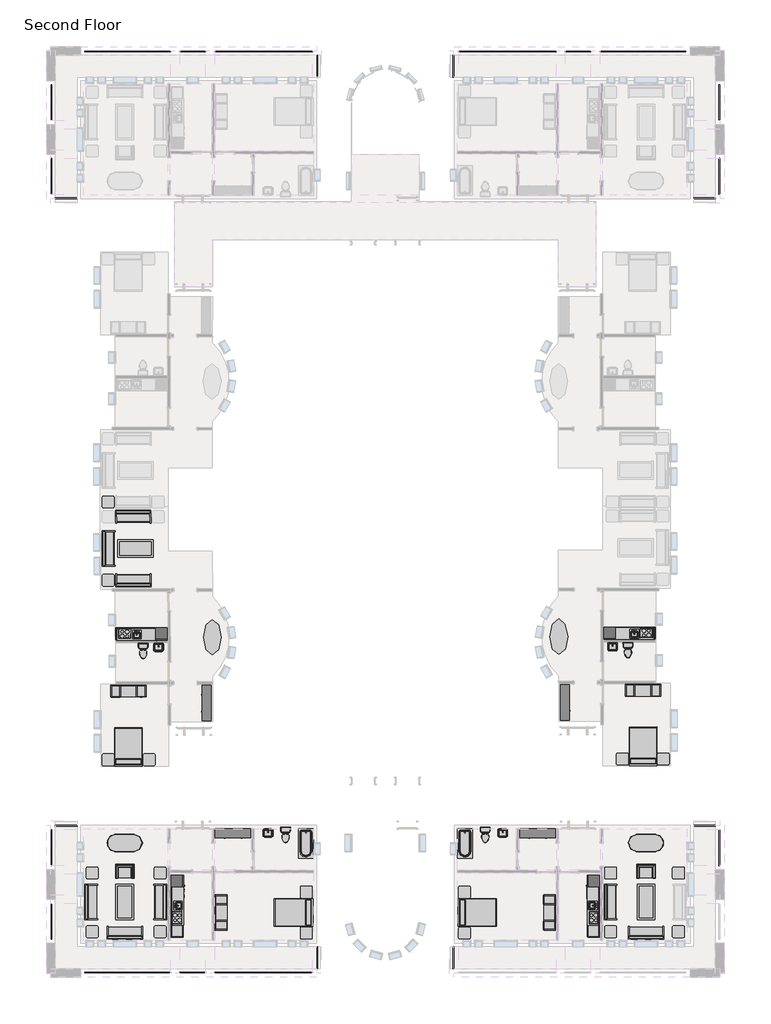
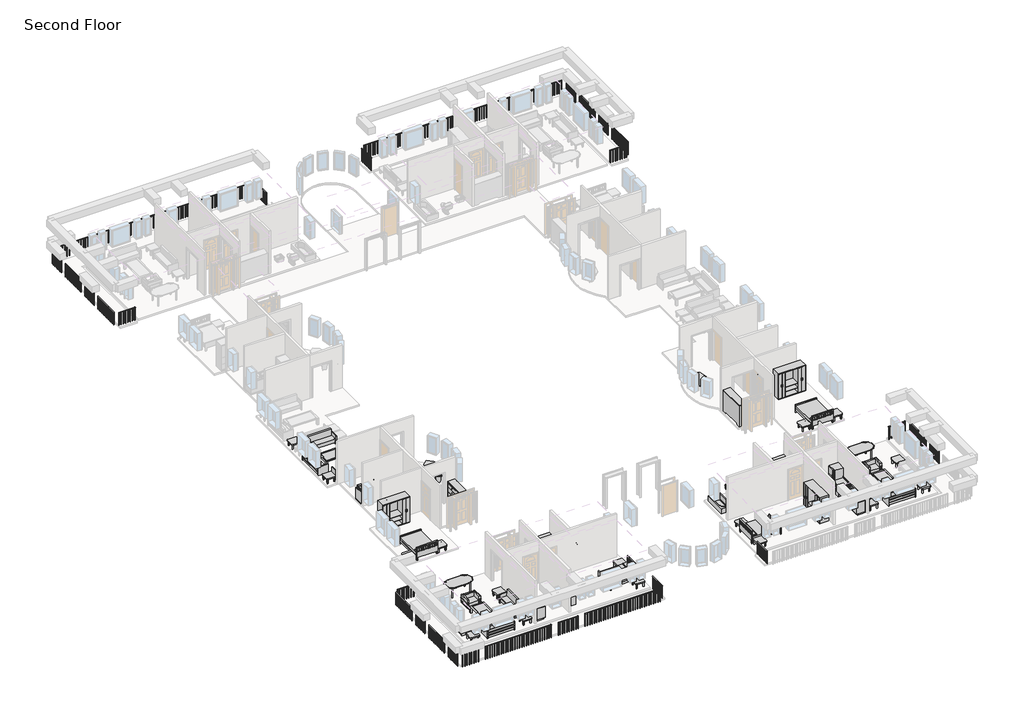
# One storey, part 5 of 6: 47 furniture elements, 34 railings, 10 flow terminals, 4 proxies.
"""IFC4 building model written with IfcOpenShell, lengths in millimetres."""

from ifc_helpers import new_model, si_unit, origin, place, context, project, spatial, transform, mapped, element, save
from components import kitchenette_medium_5_9f73a4de, kitchenette_medium_5_952fb32b, proxy_64a468c4, proxy_b7eaed23, flow_terminal_0aeb31e3, flow_terminal_b53e1081, toilet_domestic_3d_toilet_domestic_3d_f7549cf7, toilet_domestic_3d_toilet_domestic_3d_183bbd19, toilet_domestic_3d_toilet_domestic_3d_a08e12bc, toilet_domestic_3d_toilet_domestic_3d_5530cc89, tub_rectangular_3d_tub_rectangular_3d_5e45a89b, tub_rectangular_3d_tub_rectangular_3d_98eb9c7c, furniture_096e7f55, furniture_097b173b, chair_corbu_chair_corbu_2764bdef, chair_corbu_chair_corbu_95fad79a, furniture_7c473f12, furniture_f6e81328, furniture_ddc78764, furniture_328d9d47, furniture_4ef38d96, furniture_dde8a40a, furniture_cd93a443, furniture_c9413244, furniture_2c34a4f9, furniture_cc351095, furniture_43880056, furniture_a7425590, furniture_3a588284, furniture_1befe2a2, handrail_rectangular_a0c948d2, handrail_rectangular_cb3c633e, handrail_rectangular_6ff145d7, handrail_rectangular_80ee4c50, handrail_rectangular_8bd776dc, handrail_rectangular_69b34157, handrail_rectangular_89898b2f, handrail_rectangular_32c2d9bd, handrail_rectangular_1c239291, handrail_rectangular_2b3bb03d, handrail_rectangular_8c986ea6, handrail_rectangular_e91a7204, handrail_rectangular_53595464, handrail_rectangular_a494b855, handrail_rectangular_e36991a0, handrail_rectangular_7d881666, handrail_rectangular_e4eda951, handrail_rectangular_93dca39f, handrail_rectangular_cdcfe162, handrail_rectangular_a0d233dd, handrail_rectangular_ba242722, handrail_rectangular_a1b2dedc, handrail_rectangular_661a7cde, handrail_rectangular_1508d83e, handrail_rectangular_c44e27ec, handrail_rectangular_5d94c17a, handrail_rectangular_1ba635f3, handrail_rectangular_17d4969a, handrail_rectangular_c3ba92fe, handrail_rectangular_5f131317, handrail_rectangular_7ebbf838, handrail_rectangular_74ad9185, handrail_rectangular_6ab010ad, handrail_rectangular_7f64f3ec

model = new_model("IFC4")

# Units and contexts
model_context = context("Model", 3, world=origin())
ifc_project = project(units=[si_unit("LENGTHUNIT", "METRE", prefix="MILLI")], contexts=[model_context])

# Site, building, storey
site = spatial("IfcSite", under=ifc_project)
building = spatial("IfcBuilding", under=site)
storey = spatial("IfcBuildingStorey", under=building, Name="Second Floor", Elevation=3048.0)

# Proxies
placement = place(None, origin())
kitchenette_medium_5_shape = kitchenette_medium_5_9f73a4de(model_context)
element("IfcBuildingElementProxy", 1, Name="Kitchenette - Medium : 5'", ObjectType="Kitchenette - Medium : 5'", at=placement, inside=storey, context=model_context, shape_type="MappedRepresentation", body=[
    mapped(kitchenette_medium_5_shape, transform((-28107.606888, -17781.5711796, 3048.0), x_axis=(0.9999974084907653, 0.002276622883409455, 0.0), y_axis=(-0.002276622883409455, 0.9999974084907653, 0.0), z_axis=(0.0, 0.0, 1.0))),
])
kitchenette_medium_5_2_shape = kitchenette_medium_5_952fb32b(model_context)
element("IfcBuildingElementProxy", 2, Name="Kitchenette - Medium : 5'", ObjectType="Kitchenette - Medium : 5'", at=placement, inside=storey, context=model_context, shape_type="MappedRepresentation", body=[
    mapped(kitchenette_medium_5_2_shape, transform((-1744.2179937, -17741.558118, 3048.0), x_axis=(-0.999999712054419, -0.0007588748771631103, 0.0), y_axis=(0.0007588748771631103, -0.999999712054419, 0.0), z_axis=(0.0, 0.0, 1.0))),
])
proxy_shape = proxy_64a468c4(model_context)
element("IfcBuildingElementProxy", 3, Name="Kitchenette - Medium : 8'6\"", ObjectType="Kitchenette - Medium : 8'6\"", at=placement, inside=storey, context=model_context, shape_type="MappedRepresentation", body=[
    mapped(proxy_shape, transform((-25982.5839563, -32446.1322699, 3048.0), x_axis=(0.0, 1.0, 0.0), y_axis=(-1.0, 0.0, 0.0), z_axis=(0.0, 0.0, 1.0))),
])
proxy_2_shape = proxy_b7eaed23(model_context)
element("IfcBuildingElementProxy", 4, Name="Kitchenette - Medium : 8'6\"", ObjectType="Kitchenette - Medium : 8'6\"", at=placement, inside=storey, context=model_context, shape_type="MappedRepresentation", body=[
    mapped(proxy_2_shape, transform((-3887.7589563, -32446.1322699, 3048.0), x_axis=(0.0, 1.0, 0.0), y_axis=(-1.0, 0.0, 0.0), z_axis=(0.0, 0.0, 1.0))),
])

# Flow terminals
flow_terminal_shape = flow_terminal_0aeb31e3(model_context)
element("IfcFlowTerminal", 5, ObjectType="Sink Vanity-Square : 24\" x 19\"", at=placement, inside=storey, context=model_context, shape_type="MappedRepresentation", body=[
    mapped(flow_terminal_shape, transform((-21005.5856969, -28314.9262144, 3048.0), x_axis=(1.0, 0.0, 0.0), y_axis=(0.0, 1.0, 0.0), z_axis=(0.0, 0.0, 1.0))),
])
element("IfcFlowTerminal", 6, ObjectType="Sink Vanity-Square : 24\" x 19\"", at=placement, inside=storey, context=model_context, shape_type="MappedRepresentation", body=[
    mapped(flow_terminal_shape, transform((-26654.3976584, -18738.7087237, 3048.0), x_axis=(0.9999974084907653, 0.0022766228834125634, 0.0), y_axis=(-0.0022766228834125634, 0.9999974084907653, 0.0), z_axis=(0.0, 0.0, 1.0))),
])
flow_terminal_2_shape = flow_terminal_b53e1081(model_context)
element("IfcFlowTerminal", 7, ObjectType="Sink Vanity-Square : 24\" x 19\"", at=placement, inside=storey, context=model_context, shape_type="MappedRepresentation", body=[
    mapped(flow_terminal_2_shape, transform((-8864.7572157, -28314.9262144, 3048.0), x_axis=(-1.0, 0.0, 0.0), y_axis=(0.0, -1.0, 0.0), z_axis=(0.0, 0.0, 1.0))),
])
element("IfcFlowTerminal", 8, ObjectType="Sink Vanity-Square : 24\" x 19\"", at=placement, inside=storey, context=model_context, shape_type="MappedRepresentation", body=[
    mapped(flow_terminal_2_shape, transform((-3194.5151418, -18703.102462, 3048.0), x_axis=(-0.999999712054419, -0.0007588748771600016, 0.0), y_axis=(0.0007588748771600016, -0.999999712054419, 0.0), z_axis=(0.0, 0.0, 1.0))),
])
toilet_domestic_3d_toilet_domestic_3d_shape = toilet_domestic_3d_toilet_domestic_3d_f7549cf7(model_context)
toilet_domestic_3d_toilet_domestic_3d_2_shape = toilet_domestic_3d_toilet_domestic_3d_183bbd19(model_context)
element("IfcFlowTerminal", 9, ObjectType="Toilet-Domestic-3D : Toilet-Domestic-3D", at=placement, inside=storey, context=model_context, shape_type="MappedRepresentation", body=[
    mapped(toilet_domestic_3d_toilet_domestic_3d_shape, transform((-20088.1962539, -28549.2030376, 3048.0), x_axis=(1.0000000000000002, 0.0, 0.0), y_axis=(0.0, 1.0000000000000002, 0.0), z_axis=(0.0, 0.0, 1.0))),
    mapped(toilet_domestic_3d_toilet_domestic_3d_2_shape, transform((-20088.1962539, -28549.2030376, 3048.0), x_axis=(1.0000000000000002, 0.0, 0.0), y_axis=(0.0, 1.0000000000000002, 0.0), z_axis=(0.0, 0.0, 1.0))),
])
element("IfcFlowTerminal", 10, ObjectType="Toilet-Domestic-3D : Toilet-Domestic-3D", at=placement, inside=storey, context=model_context, shape_type="MappedRepresentation", body=[
    mapped(toilet_domestic_3d_toilet_domestic_3d_shape, transform((-27433.2527987, -19065.9985435, 3048.0), x_axis=(0.9999974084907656, 0.00227662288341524, 0.0), y_axis=(-0.00227662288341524, 0.9999974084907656, 0.0), z_axis=(0.0, 0.0, 1.0))),
    mapped(toilet_domestic_3d_toilet_domestic_3d_2_shape, transform((-27433.2527987, -19065.9985435, 3048.0), x_axis=(0.9999974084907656, 0.00227662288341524, 0.0), y_axis=(-0.00227662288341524, 0.9999974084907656, 0.0), z_axis=(0.0, 0.0, 1.0))),
])
toilet_domestic_3d_toilet_domestic_3d_3_shape = toilet_domestic_3d_toilet_domestic_3d_a08e12bc(model_context)
toilet_domestic_3d_toilet_domestic_3d_4_shape = toilet_domestic_3d_toilet_domestic_3d_5530cc89(model_context)
element("IfcFlowTerminal", 11, ObjectType="Toilet-Domestic-3D : Toilet-Domestic-3D", at=placement, inside=storey, context=model_context, shape_type="MappedRepresentation", body=[
    mapped(toilet_domestic_3d_toilet_domestic_3d_3_shape, transform((-9782.1466587, -28549.2030376, 3048.0), x_axis=(-1.0000000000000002, 0.0, 0.0), y_axis=(0.0, -1.0000000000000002, 0.0), z_axis=(0.0, 0.0, 1.0))),
    mapped(toilet_domestic_3d_toilet_domestic_3d_4_shape, transform((-9782.1466587, -28549.2030376, 3048.0), x_axis=(-1.0000000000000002, 0.0, 0.0), y_axis=(0.0, -1.0000000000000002, 0.0), z_axis=(0.0, 0.0, 1.0))),
])
element("IfcFlowTerminal", 12, ObjectType="Toilet-Domestic-3D : Toilet-Domestic-3D", at=placement, inside=storey, context=model_context, shape_type="MappedRepresentation", body=[
    mapped(toilet_domestic_3d_toilet_domestic_3d_3_shape, transform((-2414.6701032, -19028.026563, 3048.0), x_axis=(-0.9999997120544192, -0.0007588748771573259, 0.0), y_axis=(0.0007588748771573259, -0.9999997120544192, 0.0), z_axis=(0.0, 0.0, 1.0))),
    mapped(toilet_domestic_3d_toilet_domestic_3d_4_shape, transform((-2414.6701032, -19028.026563, 3048.0), x_axis=(-0.9999997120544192, -0.0007588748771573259, 0.0), y_axis=(0.0007588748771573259, -0.9999997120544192, 0.0), z_axis=(0.0, 0.0, 1.0))),
])
tub_rectangular_3d_tub_rectangular_3d_shape = tub_rectangular_3d_tub_rectangular_3d_5e45a89b(model_context)
element("IfcFlowTerminal", 13, ObjectType="Tub-Rectangular-3D : Tub-Rectangular-3D", at=placement, inside=storey, context=model_context, shape_type="MappedRepresentation", body=[
    mapped(tub_rectangular_3d_tub_rectangular_3d_shape, transform((-18476.8839563, -29245.383782, 3048.0), x_axis=(0.0, -1.0, 0.0), y_axis=(1.0, 0.0, 0.0), z_axis=(0.0, 0.0, 1.0))),
])
tub_rectangular_3d_tub_rectangular_3d_2_shape = tub_rectangular_3d_tub_rectangular_3d_98eb9c7c(model_context)
element("IfcFlowTerminal", 14, ObjectType="Tub-Rectangular-3D : Tub-Rectangular-3D", at=placement, inside=storey, context=model_context, shape_type="MappedRepresentation", body=[
    mapped(tub_rectangular_3d_tub_rectangular_3d_2_shape, transform((-11393.4589563, -29245.383782, 3048.0), x_axis=(0.0, -1.0, 0.0), y_axis=(1.0, 0.0, 0.0), z_axis=(0.0, 0.0, 1.0))),
])

# Furniture
furniture_shape = furniture_096e7f55(model_context)
element("IfcFurniture", 15, ObjectType="Bed-Shaker : Double 56\" x 78\"", at=placement, inside=storey, context=model_context, shape_type="MappedRepresentation", body=[
    mapped(furniture_shape, transform((-18687.1446324, -32480.2121827, 3048.0), x_axis=(0.0, -1.0, 0.0), y_axis=(1.0, 0.0, 0.0), z_axis=(0.0, 0.0, 1.0))),
])
element("IfcFurniture", 16, ObjectType="Bed-Shaker : Double 56\" x 78\"", at=placement, inside=storey, context=model_context, shape_type="MappedRepresentation", body=[
    mapped(furniture_shape, transform((-28204.4366356, -24912.5804513, 3048.0), x_axis=(-0.9999974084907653, -0.0022766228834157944, 0.0), y_axis=(0.0022766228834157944, -0.9999974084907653, 0.0), z_axis=(0.0, 0.0, 1.0))),
])
furniture_2_shape = furniture_097b173b(model_context)
element("IfcFurniture", 17, ObjectType="Bed-Shaker : Double 56\" x 78\"", at=placement, inside=storey, context=model_context, shape_type="MappedRepresentation", body=[
    mapped(furniture_2_shape, transform((-11183.1982802, -32480.2121827, 3048.0), x_axis=(0.0, -1.0, 0.0), y_axis=(1.0, 0.0, 0.0), z_axis=(0.0, 0.0, 1.0))),
])
element("IfcFurniture", 18, ObjectType="Bed-Shaker : Double 56\" x 78\"", at=placement, inside=storey, context=model_context, shape_type="MappedRepresentation", body=[
    mapped(furniture_2_shape, transform((-1625.7425483, -24872.2406101, 3048.0), x_axis=(0.999999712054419, 0.0007588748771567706, 0.0), y_axis=(-0.0007588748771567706, 0.999999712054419, 0.0), z_axis=(0.0, 0.0, 1.0))),
])
chair_corbu_chair_corbu_shape = chair_corbu_chair_corbu_2764bdef(model_context)
element("IfcFurniture", 19, ObjectType="Chair-Corbu : Chair-Corbu", at=placement, inside=storey, context=model_context, shape_type="MappedRepresentation", body=[
    mapped(chair_corbu_chair_corbu_shape, transform((-28956.2577268, -30801.8328625, 3048.0), x_axis=(1.0, 0.0, 0.0), y_axis=(0.0, 1.0, 0.0), z_axis=(0.0, 0.0, 1.0))),
])
chair_corbu_chair_corbu_2_shape = chair_corbu_chair_corbu_95fad79a(model_context)
element("IfcFurniture", 20, ObjectType="Chair-Corbu : Chair-Corbu", at=placement, inside=storey, context=model_context, shape_type="MappedRepresentation", body=[
    mapped(chair_corbu_chair_corbu_2_shape, transform((-914.0851858, -30801.8328625, 3048.0), x_axis=(-1.0, 0.0, 0.0), y_axis=(0.0, -1.0, 0.0), z_axis=(0.0, 0.0, 1.0))),
])
furniture_3_shape = furniture_7c473f12(model_context)
element("IfcFurniture", 21, ObjectType="Dresser : 72\" x 60\" x 18\"", at=placement, inside=storey, context=model_context, shape_type="MappedRepresentation", body=[
    mapped(furniture_3_shape, transform((-22525.6906965, -28012.9178592, 3048.0), x_axis=(1.0, 0.0, 0.0), y_axis=(0.0, 1.0, 0.0), z_axis=(0.0, 0.0, 1.0))),
])
element("IfcFurniture", 22, ObjectType="Dresser : 72\" x 60\" x 18\"", at=placement, inside=storey, context=model_context, shape_type="MappedRepresentation", body=[
    mapped(furniture_3_shape, transform((-23801.477263, -21929.2966114, 3048.0), x_axis=(0.00227662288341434, -0.9999974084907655, 0.0), y_axis=(0.9999974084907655, 0.00227662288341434, 0.0), z_axis=(0.0, 0.0, 1.0))),
])
furniture_4_shape = furniture_f6e81328(model_context)
element("IfcFurniture", 23, ObjectType="Dresser : 72\" x 60\" x 18\"", at=placement, inside=storey, context=model_context, shape_type="MappedRepresentation", body=[
    mapped(furniture_4_shape, transform((-7344.6522161, -28012.9178592, 3048.0), x_axis=(-1.0, 0.0, 0.0), y_axis=(0.0, -1.0, 0.0), z_axis=(0.0, 0.0, 1.0))),
])
element("IfcFurniture", 24, ObjectType="Dresser : 72\" x 60\" x 18\"", at=placement, inside=storey, context=model_context, shape_type="MappedRepresentation", body=[
    mapped(furniture_4_shape, transform((-6037.7373795, -21902.3356763, 3048.0), x_axis=(0.0007588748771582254, -0.9999997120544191, 0.0), y_axis=(0.9999997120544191, 0.0007588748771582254, 0.0), z_axis=(0.0, 0.0, 1.0))),
])
furniture_5_shape = furniture_ddc78764(model_context)
element("IfcFurniture", 25, ObjectType="Entertainment Center : 72\" x 72\" x 24\"", at=placement, inside=storey, context=model_context, shape_type="MappedRepresentation", body=[
    mapped(furniture_5_shape, transform((-23810.8839563, -32461.1621827, 3048.0), x_axis=(0.0, 1.0, 0.0), y_axis=(-1.0, 0.0, 0.0), z_axis=(0.0, 0.0, 1.0))),
])
element("IfcFurniture", 26, ObjectType="Entertainment Center : 72\" x 72\" x 24\"", at=placement, inside=storey, context=model_context, shape_type="MappedRepresentation", body=[
    mapped(furniture_5_shape, transform((-28195.1288723, -20633.3206223, 3048.0), x_axis=(0.9999974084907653, 0.0022766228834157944, 0.0), y_axis=(-0.0022766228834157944, 0.9999974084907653, 0.0), z_axis=(0.0, 0.0, 1.0))),
])
furniture_6_shape = furniture_328d9d47(model_context)
element("IfcFurniture", 27, ObjectType="Entertainment Center : 72\" x 72\" x 24\"", at=placement, inside=storey, context=model_context, shape_type="MappedRepresentation", body=[
    mapped(furniture_6_shape, transform((-6059.4589563, -32461.1621827, 3048.0), x_axis=(0.0, 1.0, 0.0), y_axis=(-1.0, 0.0, 0.0), z_axis=(0.0, 0.0, 1.0))),
])
element("IfcFurniture", 28, ObjectType="Entertainment Center : 72\" x 72\" x 24\"", at=placement, inside=storey, context=model_context, shape_type="MappedRepresentation", body=[
    mapped(furniture_6_shape, transform((-1648.0399411, -20593.0287498, 3048.0), x_axis=(-0.999999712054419, -0.0007588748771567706, 0.0), y_axis=(0.0007588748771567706, -0.999999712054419, 0.0), z_axis=(0.0, 0.0, 1.0))),
])
furniture_7_shape = furniture_4ef38d96(model_context)
element("IfcFurniture", 29, ObjectType="Sofa : 72\"", at=placement, inside=storey, context=model_context, shape_type="MappedRepresentation", body=[
    mapped(furniture_7_shape, transform((-28312.5134645, -33349.614215, 3048.0), x_axis=(-1.0, 0.0, 0.0), y_axis=(0.0, -1.0, 0.0), z_axis=(0.0, 0.0, 1.0))),
])
element("IfcFurniture", 30, ObjectType="Sofa : 72\"", at=placement, inside=storey, context=model_context, shape_type="MappedRepresentation", body=[
    mapped(furniture_7_shape, transform((-29963.929858, -31991.3388051, 3048.0), x_axis=(0.0, 1.0, 0.0), y_axis=(-1.0, 0.0, 0.0), z_axis=(0.0, 0.0, 1.0))),
])
element("IfcFurniture", 31, ObjectType="Sofa : 72\"", at=placement, inside=storey, context=model_context, shape_type="MappedRepresentation", body=[
    mapped(furniture_7_shape, transform((-26700.2380547, -31850.5978215, 3048.0), x_axis=(0.0, -1.0, 0.0), y_axis=(1.0, 0.0, 0.0), z_axis=(0.0, 0.0, 1.0))),
])
element("IfcFurniture", 32, ObjectType="Sofa : 72\"", at=placement, inside=storey, context=model_context, shape_type="MappedRepresentation", body=[
    mapped(furniture_7_shape, transform((-29066.303607, -13757.6119061, 3048.0), x_axis=(-0.0022766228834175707, 0.9999974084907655, 0.0), y_axis=(-0.9999974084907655, -0.0022766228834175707, 0.0), z_axis=(0.0, 0.0, 1.0))),
])
element("IfcFurniture", 33, ObjectType="Sofa : 72\"", at=placement, inside=storey, context=model_context, shape_type="MappedRepresentation", body=[
    mapped(furniture_7_shape, transform((-27872.3119152, -15172.6171557, 3048.0), x_axis=(-0.9999974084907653, -0.0022766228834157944, 0.0), y_axis=(0.0022766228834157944, -0.9999974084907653, 0.0), z_axis=(0.0, 0.0, 1.0))),
])
furniture_8_shape = furniture_dde8a40a(model_context)
element("IfcFurniture", 34, ObjectType="Sofa : 72\"", at=placement, inside=storey, context=model_context, shape_type="MappedRepresentation", body=[
    mapped(furniture_8_shape, transform((-1557.8294481, -33349.614215, 3048.0), x_axis=(1.0, 0.0, 0.0), y_axis=(0.0, 1.0, 0.0), z_axis=(0.0, 0.0, 1.0))),
])
element("IfcFurniture", 35, ObjectType="Sofa : 72\"", at=placement, inside=storey, context=model_context, shape_type="MappedRepresentation", body=[
    mapped(furniture_8_shape, transform((-3170.104858, -31850.5978215, 3048.0), x_axis=(0.0, -1.0, 0.0), y_axis=(1.0, 0.0, 0.0), z_axis=(0.0, 0.0, 1.0))),
])
element("IfcFurniture", 36, ObjectType="Sofa : 72\"", at=placement, inside=storey, context=model_context, shape_type="MappedRepresentation", body=[
    mapped(furniture_8_shape, transform((-27879.0875562, -12196.444182, 3048.0), x_axis=(-0.9999974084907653, -0.002276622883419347, 0.0), y_axis=(0.002276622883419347, -0.9999974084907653, 0.0), z_axis=(0.0, 0.0, 1.0))),
])
furniture_9_shape = furniture_cd93a443(model_context)
element("IfcFurniture", 37, ObjectType="Table-Coffee : 36\" x 72\" x 18\"", at=placement, inside=storey, context=model_context, shape_type="MappedRepresentation", body=[
    mapped(furniture_9_shape, transform((-28287.6728785, -31939.23408, 3048.0), x_axis=(0.0, 1.0, 0.0), y_axis=(-1.0, 0.0, 0.0), z_axis=(0.0, 0.0, 1.0))),
])
element("IfcFurniture", 38, ObjectType="Table-Coffee : 36\" x 72\" x 18\"", at=placement, inside=storey, context=model_context, shape_type="MappedRepresentation", body=[
    mapped(furniture_9_shape, transform((-27859.0700478, -13779.7041338, 3048.0), x_axis=(0.9999974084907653, 0.0022766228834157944, 0.0), y_axis=(-0.0022766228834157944, 0.9999974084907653, 0.0), z_axis=(0.0, 0.0, 1.0))),
])
furniture_10_shape = furniture_c9413244(model_context)
element("IfcFurniture", 39, ObjectType="Table-Coffee : 36\" x 72\" x 18\"", at=placement, inside=storey, context=model_context, shape_type="MappedRepresentation", body=[
    mapped(furniture_10_shape, transform((-1582.6700341, -31939.23408, 3048.0), x_axis=(0.0, 1.0, 0.0), y_axis=(-1.0, 0.0, 0.0), z_axis=(0.0, 0.0, 1.0))),
])
furniture_11_shape = furniture_2c34a4f9(model_context)
element("IfcFurniture", 40, ObjectType="Table-Dining Oval : 36\" x 72\"", at=placement, inside=storey, context=model_context, shape_type="MappedRepresentation", body=[
    mapped(furniture_11_shape, transform((-28784.7036284, -29231.066674, 3048.0), x_axis=(-1.0, 0.0, 0.0), y_axis=(0.0, -1.0, 0.0), z_axis=(0.0, 0.0, 1.0))),
])
furniture_12_shape = furniture_cc351095(model_context)
element("IfcFurniture", 41, ObjectType="Table-Dining Oval : 36\" x 72\"", at=placement, inside=storey, context=model_context, shape_type="MappedRepresentation", body=[
    mapped(furniture_12_shape, transform((-1085.6392842, -29231.066674, 3048.0), x_axis=(1.0, 0.0, 0.0), y_axis=(0.0, 1.0, 0.0), z_axis=(0.0, 0.0, 1.0))),
])
furniture_13_shape = furniture_43880056(model_context)
element("IfcFurniture", 42, ObjectType="Table-Ellipse : 72\" x 36\"", at=placement, inside=storey, context=model_context, shape_type="MappedRepresentation", body=[
    mapped(furniture_13_shape, transform((-23868.1864956, -18263.2939384, 3048.0), x_axis=(-0.0022766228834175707, 0.9999974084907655, 0.0), y_axis=(-0.9999974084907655, -0.0022766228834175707, 0.0), z_axis=(0.0, 0.0, 1.0))),
])
furniture_14_shape = furniture_a7425590(model_context)
element("IfcFurniture", 43, ObjectType="Table-Ellipse : 72\" x 36\"", at=placement, inside=storey, context=model_context, shape_type="MappedRepresentation", body=[
    mapped(furniture_14_shape, transform((-5982.1565875, -18236.1473975, 3048.0), x_axis=(-0.0007588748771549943, 0.9999997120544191, 0.0), y_axis=(-0.9999997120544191, -0.0007588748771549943, 0.0), z_axis=(0.0, 0.0, 1.0))),
])
furniture_15_shape = furniture_3a588284(model_context)
element("IfcFurniture", 44, ObjectType="Table-End : 24\" x 24\"", at=placement, inside=storey, context=model_context, shape_type="MappedRepresentation", body=[
    mapped(furniture_15_shape, transform((-11164.2346356, -31557.9140031, 3048.0), x_axis=(1.0, 0.0, 0.0), y_axis=(0.0, 1.0, 0.0), z_axis=(0.0, 0.0, 1.0))),
])
element("IfcFurniture", 45, ObjectType="Table-End : 24\" x 24\"", at=placement, inside=storey, context=model_context, shape_type="MappedRepresentation", body=[
    mapped(furniture_15_shape, transform((-29750.750326, -33292.5683133, 3048.0), x_axis=(-1.0, 0.0, 0.0), y_axis=(0.0, -1.0, 0.0), z_axis=(0.0, 0.0, 1.0))),
])
element("IfcFurniture", 46, ObjectType="Table-End : 24\" x 24\"", at=placement, inside=storey, context=model_context, shape_type="MappedRepresentation", body=[
    mapped(furniture_15_shape, transform((-26245.550326, -33292.5683133, 3048.0), x_axis=(-1.0, 0.0, 0.0), y_axis=(0.0, -1.0, 0.0), z_axis=(0.0, 0.0, 1.0))),
])
element("IfcFurniture", 47, ObjectType="Table-End : 24\" x 24\"", at=placement, inside=storey, context=model_context, shape_type="MappedRepresentation", body=[
    mapped(furniture_15_shape, transform((-26245.550326, -30268.3808133, 3048.0), x_axis=(-1.0, 0.0, 0.0), y_axis=(0.0, -1.0, 0.0), z_axis=(0.0, 0.0, 1.0))),
])
element("IfcFurniture", 48, ObjectType="Table-End : 24\" x 24\"", at=placement, inside=storey, context=model_context, shape_type="MappedRepresentation", body=[
    mapped(furniture_15_shape, transform((-29750.750326, -30268.3808133, 3048.0), x_axis=(-1.0, 0.0, 0.0), y_axis=(0.0, -1.0, 0.0), z_axis=(0.0, 0.0, 1.0))),
])
element("IfcFurniture", 49, ObjectType="Table-End : 24\" x 24\"", at=placement, inside=storey, context=model_context, shape_type="MappedRepresentation", body=[
    mapped(furniture_15_shape, transform((-18706.1082771, -33364.4103623, 3048.0), x_axis=(-1.0, 0.0, 0.0), y_axis=(0.0, -1.0, 0.0), z_axis=(0.0, 0.0, 1.0))),
])
element("IfcFurniture", 50, ObjectType="Table-End : 24\" x 24\"", at=placement, inside=storey, context=model_context, shape_type="MappedRepresentation", body=[
    mapped(furniture_15_shape, transform((-29093.6003882, -11599.1310126, 3048.0), x_axis=(0.0007588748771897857, 0.999999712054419, 0.0), y_axis=(-0.999999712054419, 0.0007588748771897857, 0.0), z_axis=(0.0, 0.0, 1.0))),
])
element("IfcFurniture", 51, ObjectType="Table-End : 24\" x 24\"", at=placement, inside=storey, context=model_context, shape_type="MappedRepresentation", body=[
    mapped(furniture_15_shape, transform((-2548.0548534, -24853.9768798, 3048.0), x_axis=(-0.0007588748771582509, 0.9999997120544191, 0.0), y_axis=(-0.9999997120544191, -0.0007588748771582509, 0.0), z_axis=(0.0, 0.0, 1.0))),
])
element("IfcFurniture", 52, ObjectType="Table-End : 24\" x 24\"", at=placement, inside=storey, context=model_context, shape_type="MappedRepresentation", body=[
    mapped(furniture_15_shape, transform((-29084.64411, -15630.066093, 3048.0), x_axis=(-0.0022766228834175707, 0.9999974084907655, 0.0), y_axis=(-0.9999974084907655, -0.0022766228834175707, 0.0), z_axis=(0.0, 0.0, 1.0))),
])
element("IfcFurniture", 53, ObjectType="Table-End : 24\" x 24\"", at=placement, inside=storey, context=model_context, shape_type="MappedRepresentation", body=[
    mapped(furniture_15_shape, transform((-29088.6756968, -24895.6298416, 3048.0), x_axis=(-0.0022766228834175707, 0.9999974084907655, 0.0), y_axis=(-0.9999974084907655, -0.0022766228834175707, 0.0), z_axis=(0.0, 0.0, 1.0))),
])
furniture_16_shape = furniture_1befe2a2(model_context)
element("IfcFurniture", 54, ObjectType="Table-End : 24\" x 24\"", at=placement, inside=storey, context=model_context, shape_type="MappedRepresentation", body=[
    mapped(furniture_16_shape, transform((-119.5925866, -33292.5683133, 3048.0), x_axis=(1.0, 0.0, 0.0), y_axis=(0.0, 1.0, 0.0), z_axis=(0.0, 0.0, 1.0))),
])
element("IfcFurniture", 55, ObjectType="Table-End : 24\" x 24\"", at=placement, inside=storey, context=model_context, shape_type="MappedRepresentation", body=[
    mapped(furniture_16_shape, transform((-3624.7925866, -33292.5683133, 3048.0), x_axis=(1.0, 0.0, 0.0), y_axis=(0.0, 1.0, 0.0), z_axis=(0.0, 0.0, 1.0))),
])
element("IfcFurniture", 56, ObjectType="Table-End : 24\" x 24\"", at=placement, inside=storey, context=model_context, shape_type="MappedRepresentation", body=[
    mapped(furniture_16_shape, transform((-3624.7925866, -30268.3808133, 3048.0), x_axis=(1.0, 0.0, 0.0), y_axis=(0.0, 1.0, 0.0), z_axis=(0.0, 0.0, 1.0))),
])
element("IfcFurniture", 57, ObjectType="Table-End : 24\" x 24\"", at=placement, inside=storey, context=model_context, shape_type="MappedRepresentation", body=[
    mapped(furniture_16_shape, transform((-119.5925866, -30268.3808133, 3048.0), x_axis=(1.0, 0.0, 0.0), y_axis=(0.0, 1.0, 0.0), z_axis=(0.0, 0.0, 1.0))),
])
element("IfcFurniture", 58, ObjectType="Table-End : 24\" x 24\"", at=placement, inside=storey, context=model_context, shape_type="MappedRepresentation", body=[
    mapped(furniture_16_shape, transform((-11164.2346356, -33364.4103623, 3048.0), x_axis=(1.0, 0.0, 0.0), y_axis=(0.0, 1.0, 0.0), z_axis=(0.0, 0.0, 1.0))),
])
element("IfcFurniture", 59, ObjectType="Table-End : 24\" x 24\"", at=placement, inside=storey, context=model_context, shape_type="MappedRepresentation", body=[
    mapped(furniture_16_shape, transform((-18706.1082771, -31557.9140031, 3048.0), x_axis=(-1.0, 0.0, 0.0), y_axis=(0.0, -1.0, 0.0), z_axis=(0.0, 0.0, 1.0))),
])
element("IfcFurniture", 60, ObjectType="Table-End : 24\" x 24\"", at=placement, inside=storey, context=model_context, shape_type="MappedRepresentation", body=[
    mapped(furniture_16_shape, transform((-741.5590143, -24852.6059751, 3048.0), x_axis=(-0.0007588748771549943, 0.9999997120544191, 0.0), y_axis=(-0.9999997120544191, -0.0007588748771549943, 0.0), z_axis=(0.0, 0.0, 1.0))),
])
element("IfcFurniture", 61, ObjectType="Table-End : 24\" x 24\"", at=placement, inside=storey, context=model_context, shape_type="MappedRepresentation", body=[
    mapped(furniture_16_shape, transform((-27282.1840192, -24891.5171307, 3048.0), x_axis=(-0.002276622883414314, 0.9999974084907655, 0.0), y_axis=(-0.9999974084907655, -0.002276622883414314, 0.0), z_axis=(0.0, 0.0, 1.0))),
])

# Railings
handrail_rectangular_shape = handrail_rectangular_a0c948d2(model_context)
element("IfcRailing", 62, ObjectType="Handrail - Rectangular", at=placement, inside=storey, context=model_context, shape_type="MappedRepresentation", body=[
    mapped(handrail_rectangular_shape, transform((0.0, 0.0, 0.0), x_axis=(1.0, 0.0, 0.0), y_axis=(0.0, 1.0, 0.0), z_axis=(0.0, 0.0, 1.0))),
])
handrail_rectangular_2_shape = handrail_rectangular_cb3c633e(model_context)
element("IfcRailing", 63, ObjectType="Handrail - Rectangular", at=placement, inside=storey, context=model_context, shape_type="MappedRepresentation", body=[
    mapped(handrail_rectangular_2_shape, transform((0.0, 0.0, 0.0), x_axis=(1.0, 0.0, 0.0), y_axis=(0.0, 1.0, 0.0), z_axis=(0.0, 0.0, 1.0))),
])
handrail_rectangular_3_shape = handrail_rectangular_6ff145d7(model_context)
element("IfcRailing", 64, ObjectType="Handrail - Rectangular", at=placement, inside=storey, context=model_context, shape_type="MappedRepresentation", body=[
    mapped(handrail_rectangular_3_shape, transform((0.0, 0.0, 0.0), x_axis=(1.0, 0.0, 0.0), y_axis=(0.0, 1.0, 0.0), z_axis=(0.0, 0.0, 1.0))),
])
handrail_rectangular_4_shape = handrail_rectangular_80ee4c50(model_context)
element("IfcRailing", 65, ObjectType="Handrail - Rectangular", at=placement, inside=storey, context=model_context, shape_type="MappedRepresentation", body=[
    mapped(handrail_rectangular_4_shape, transform((0.0, 0.0, 0.0), x_axis=(1.0, 0.0, 0.0), y_axis=(0.0, 1.0, 0.0), z_axis=(0.0, 0.0, 1.0))),
])
handrail_rectangular_5_shape = handrail_rectangular_8bd776dc(model_context)
element("IfcRailing", 66, ObjectType="Handrail - Rectangular", at=placement, inside=storey, context=model_context, shape_type="MappedRepresentation", body=[
    mapped(handrail_rectangular_5_shape, transform((0.0, 0.0, 0.0), x_axis=(1.0, 0.0, 0.0), y_axis=(0.0, 1.0, 0.0), z_axis=(0.0, 0.0, 1.0))),
])
handrail_rectangular_6_shape = handrail_rectangular_69b34157(model_context)
element("IfcRailing", 67, ObjectType="Handrail - Rectangular", at=placement, inside=storey, context=model_context, shape_type="MappedRepresentation", body=[
    mapped(handrail_rectangular_6_shape, transform((0.0, 0.0, 0.0), x_axis=(1.0, 0.0, 0.0), y_axis=(0.0, 1.0, 0.0), z_axis=(0.0, 0.0, 1.0))),
])
handrail_rectangular_7_shape = handrail_rectangular_89898b2f(model_context)
element("IfcRailing", 68, ObjectType="Handrail - Rectangular", at=placement, inside=storey, context=model_context, shape_type="MappedRepresentation", body=[
    mapped(handrail_rectangular_7_shape, transform((0.0, 0.0, 0.0), x_axis=(1.0, 0.0, 0.0), y_axis=(0.0, 1.0, 0.0), z_axis=(0.0, 0.0, 1.0))),
])
handrail_rectangular_8_shape = handrail_rectangular_32c2d9bd(model_context)
element("IfcRailing", 69, ObjectType="Handrail - Rectangular", at=placement, inside=storey, context=model_context, shape_type="MappedRepresentation", body=[
    mapped(handrail_rectangular_8_shape, transform((0.0, 0.0, 0.0), x_axis=(1.0, 0.0, 0.0), y_axis=(0.0, 1.0, 0.0), z_axis=(0.0, 0.0, 1.0))),
])
handrail_rectangular_9_shape = handrail_rectangular_1c239291(model_context)
element("IfcRailing", 70, ObjectType="Handrail - Rectangular", at=placement, inside=storey, context=model_context, shape_type="MappedRepresentation", body=[
    mapped(handrail_rectangular_9_shape, transform((0.0, 0.0, 0.0), x_axis=(1.0, 0.0, 0.0), y_axis=(0.0, 1.0, 0.0), z_axis=(0.0, 0.0, 1.0))),
])
handrail_rectangular_10_shape = handrail_rectangular_2b3bb03d(model_context)
element("IfcRailing", 71, ObjectType="Handrail - Rectangular", at=placement, inside=storey, context=model_context, shape_type="MappedRepresentation", body=[
    mapped(handrail_rectangular_10_shape, transform((0.0, 0.0, 0.0), x_axis=(1.0, 0.0, 0.0), y_axis=(0.0, 1.0, 0.0), z_axis=(0.0, 0.0, 1.0))),
])
handrail_rectangular_11_shape = handrail_rectangular_8c986ea6(model_context)
element("IfcRailing", 72, ObjectType="Handrail - Rectangular", at=placement, inside=storey, context=model_context, shape_type="MappedRepresentation", body=[
    mapped(handrail_rectangular_11_shape, transform((0.0, 0.0, 0.0), x_axis=(1.0, 0.0, 0.0), y_axis=(0.0, 1.0, 0.0), z_axis=(0.0, 0.0, 1.0))),
])
handrail_rectangular_12_shape = handrail_rectangular_e91a7204(model_context)
element("IfcRailing", 73, ObjectType="Handrail - Rectangular", at=placement, inside=storey, context=model_context, shape_type="MappedRepresentation", body=[
    mapped(handrail_rectangular_12_shape, transform((0.0, 0.0, 0.0), x_axis=(1.0, 0.0, 0.0), y_axis=(0.0, 1.0, 0.0), z_axis=(0.0, 0.0, 1.0))),
])
handrail_rectangular_13_shape = handrail_rectangular_53595464(model_context)
element("IfcRailing", 74, ObjectType="Handrail - Rectangular", at=placement, inside=storey, context=model_context, shape_type="MappedRepresentation", body=[
    mapped(handrail_rectangular_13_shape, transform((0.0, 0.0, 0.0), x_axis=(1.0, 0.0, 0.0), y_axis=(0.0, 1.0, 0.0), z_axis=(0.0, 0.0, 1.0))),
])
handrail_rectangular_14_shape = handrail_rectangular_a494b855(model_context)
element("IfcRailing", 75, ObjectType="Handrail - Rectangular", at=placement, inside=storey, context=model_context, shape_type="MappedRepresentation", body=[
    mapped(handrail_rectangular_14_shape, transform((0.0, 0.0, 0.0), x_axis=(1.0, 0.0, 0.0), y_axis=(0.0, 1.0, 0.0), z_axis=(0.0, 0.0, 1.0))),
])
handrail_rectangular_15_shape = handrail_rectangular_e36991a0(model_context)
element("IfcRailing", 76, ObjectType="Handrail - Rectangular", at=placement, inside=storey, context=model_context, shape_type="MappedRepresentation", body=[
    mapped(handrail_rectangular_15_shape, transform((0.0, 0.0, 0.0), x_axis=(1.0, 0.0, 0.0), y_axis=(0.0, 1.0, 0.0), z_axis=(0.0, 0.0, 1.0))),
])
handrail_rectangular_16_shape = handrail_rectangular_7d881666(model_context)
element("IfcRailing", 77, ObjectType="Handrail - Rectangular", at=placement, inside=storey, context=model_context, shape_type="MappedRepresentation", body=[
    mapped(handrail_rectangular_16_shape, transform((0.0, 0.0, 0.0), x_axis=(1.0, 0.0, 0.0), y_axis=(0.0, 1.0, 0.0), z_axis=(0.0, 0.0, 1.0))),
])
handrail_rectangular_17_shape = handrail_rectangular_e4eda951(model_context)
element("IfcRailing", 78, ObjectType="Handrail - Rectangular", at=placement, inside=storey, context=model_context, shape_type="MappedRepresentation", body=[
    mapped(handrail_rectangular_17_shape, transform((0.0, 0.0, 0.0), x_axis=(1.0, 0.0, 0.0), y_axis=(0.0, 1.0, 0.0), z_axis=(0.0, 0.0, 1.0))),
])
handrail_rectangular_18_shape = handrail_rectangular_93dca39f(model_context)
element("IfcRailing", 79, ObjectType="Handrail - Rectangular", at=placement, inside=storey, context=model_context, shape_type="MappedRepresentation", body=[
    mapped(handrail_rectangular_18_shape, transform((0.0, 0.0, 0.0), x_axis=(1.0, 0.0, 0.0), y_axis=(0.0, 1.0, 0.0), z_axis=(0.0, 0.0, 1.0))),
])
handrail_rectangular_19_shape = handrail_rectangular_cdcfe162(model_context)
element("IfcRailing", 80, ObjectType="Handrail - Rectangular", at=placement, inside=storey, context=model_context, shape_type="MappedRepresentation", body=[
    mapped(handrail_rectangular_19_shape, transform((0.0, 0.0, 0.0), x_axis=(1.0, 0.0, 0.0), y_axis=(0.0, 1.0, 0.0), z_axis=(0.0, 0.0, 1.0))),
])
handrail_rectangular_20_shape = handrail_rectangular_a0d233dd(model_context)
element("IfcRailing", 81, ObjectType="Handrail - Rectangular", at=placement, inside=storey, context=model_context, shape_type="MappedRepresentation", body=[
    mapped(handrail_rectangular_20_shape, transform((0.0, 0.0, 0.0), x_axis=(1.0, 0.0, 0.0), y_axis=(0.0, 1.0, 0.0), z_axis=(0.0, 0.0, 1.0))),
])
handrail_rectangular_21_shape = handrail_rectangular_ba242722(model_context)
element("IfcRailing", 82, ObjectType="Handrail - Rectangular", at=placement, inside=storey, context=model_context, shape_type="MappedRepresentation", body=[
    mapped(handrail_rectangular_21_shape, transform((0.0, 0.0, 0.0), x_axis=(1.0, 0.0, 0.0), y_axis=(0.0, 1.0, 0.0), z_axis=(0.0, 0.0, 1.0))),
])
handrail_rectangular_22_shape = handrail_rectangular_a1b2dedc(model_context)
element("IfcRailing", 83, ObjectType="Handrail - Rectangular", at=placement, inside=storey, context=model_context, shape_type="MappedRepresentation", body=[
    mapped(handrail_rectangular_22_shape, transform((0.0, 0.0, 0.0), x_axis=(1.0, 0.0, 0.0), y_axis=(0.0, 1.0, 0.0), z_axis=(0.0, 0.0, 1.0))),
])
handrail_rectangular_23_shape = handrail_rectangular_661a7cde(model_context)
element("IfcRailing", 84, ObjectType="Handrail - Rectangular", at=placement, inside=storey, context=model_context, shape_type="MappedRepresentation", body=[
    mapped(handrail_rectangular_23_shape, transform((0.0, 0.0, 0.0), x_axis=(1.0, 0.0, 0.0), y_axis=(0.0, 1.0, 0.0), z_axis=(0.0, 0.0, 1.0))),
])
handrail_rectangular_24_shape = handrail_rectangular_1508d83e(model_context)
element("IfcRailing", 85, ObjectType="Handrail - Rectangular", at=placement, inside=storey, context=model_context, shape_type="MappedRepresentation", body=[
    mapped(handrail_rectangular_24_shape, transform((0.0, 0.0, 0.0), x_axis=(1.0, 0.0, 0.0), y_axis=(0.0, 1.0, 0.0), z_axis=(0.0, 0.0, 1.0))),
])
handrail_rectangular_25_shape = handrail_rectangular_c44e27ec(model_context)
element("IfcRailing", 86, ObjectType="Handrail - Rectangular", at=placement, inside=storey, context=model_context, shape_type="MappedRepresentation", body=[
    mapped(handrail_rectangular_25_shape, transform((0.0, 0.0, 0.0), x_axis=(1.0, 0.0, 0.0), y_axis=(0.0, 1.0, 0.0), z_axis=(0.0, 0.0, 1.0))),
])
handrail_rectangular_26_shape = handrail_rectangular_5d94c17a(model_context)
element("IfcRailing", 87, ObjectType="Handrail - Rectangular", at=placement, inside=storey, context=model_context, shape_type="MappedRepresentation", body=[
    mapped(handrail_rectangular_26_shape, transform((0.0, 0.0, 0.0), x_axis=(1.0, 0.0, 0.0), y_axis=(0.0, 1.0, 0.0), z_axis=(0.0, 0.0, 1.0))),
])
handrail_rectangular_27_shape = handrail_rectangular_1ba635f3(model_context)
element("IfcRailing", 88, ObjectType="Handrail - Rectangular", at=placement, inside=storey, context=model_context, shape_type="MappedRepresentation", body=[
    mapped(handrail_rectangular_27_shape, transform((0.0, 0.0, 0.0), x_axis=(1.0, 0.0, 0.0), y_axis=(0.0, 1.0, 0.0), z_axis=(0.0, 0.0, 1.0))),
])
handrail_rectangular_28_shape = handrail_rectangular_17d4969a(model_context)
element("IfcRailing", 89, ObjectType="Handrail - Rectangular", at=placement, inside=storey, context=model_context, shape_type="MappedRepresentation", body=[
    mapped(handrail_rectangular_28_shape, transform((0.0, 0.0, 0.0), x_axis=(1.0, 0.0, 0.0), y_axis=(0.0, 1.0, 0.0), z_axis=(0.0, 0.0, 1.0))),
])
handrail_rectangular_29_shape = handrail_rectangular_c3ba92fe(model_context)
element("IfcRailing", 90, ObjectType="Handrail - Rectangular", at=placement, inside=storey, context=model_context, shape_type="MappedRepresentation", body=[
    mapped(handrail_rectangular_29_shape, transform((0.0, 0.0, 0.0), x_axis=(1.0, 0.0, 0.0), y_axis=(0.0, 1.0, 0.0), z_axis=(0.0, 0.0, 1.0))),
])
handrail_rectangular_30_shape = handrail_rectangular_5f131317(model_context)
element("IfcRailing", 91, ObjectType="Handrail - Rectangular", at=placement, inside=storey, context=model_context, shape_type="MappedRepresentation", body=[
    mapped(handrail_rectangular_30_shape, transform((0.0, 0.0, 0.0), x_axis=(1.0, 0.0, 0.0), y_axis=(0.0, 1.0, 0.0), z_axis=(0.0, 0.0, 1.0))),
])
handrail_rectangular_31_shape = handrail_rectangular_7ebbf838(model_context)
element("IfcRailing", 92, ObjectType="Handrail - Rectangular", at=placement, inside=storey, context=model_context, shape_type="MappedRepresentation", body=[
    mapped(handrail_rectangular_31_shape, transform((0.0, 0.0, 0.0), x_axis=(1.0, 0.0, 0.0), y_axis=(0.0, 1.0, 0.0), z_axis=(0.0, 0.0, 1.0))),
])
handrail_rectangular_32_shape = handrail_rectangular_74ad9185(model_context)
element("IfcRailing", 93, ObjectType="Handrail - Rectangular", at=placement, inside=storey, context=model_context, shape_type="MappedRepresentation", body=[
    mapped(handrail_rectangular_32_shape, transform((0.0, 0.0, 0.0), x_axis=(1.0, 0.0, 0.0), y_axis=(0.0, 1.0, 0.0), z_axis=(0.0, 0.0, 1.0))),
])
handrail_rectangular_33_shape = handrail_rectangular_6ab010ad(model_context)
element("IfcRailing", 94, ObjectType="Handrail - Rectangular", at=placement, inside=storey, context=model_context, shape_type="MappedRepresentation", body=[
    mapped(handrail_rectangular_33_shape, transform((0.0, 0.0, 0.0), x_axis=(1.0, 0.0, 0.0), y_axis=(0.0, 1.0, 0.0), z_axis=(0.0, 0.0, 1.0))),
])
handrail_rectangular_34_shape = handrail_rectangular_7f64f3ec(model_context)
element("IfcRailing", 95, ObjectType="Handrail - Rectangular", at=placement, inside=storey, context=model_context, shape_type="MappedRepresentation", body=[
    mapped(handrail_rectangular_34_shape, transform((0.0, 0.0, 0.0), x_axis=(1.0, 0.0, 0.0), y_axis=(0.0, 1.0, 0.0), z_axis=(0.0, 0.0, 1.0))),
])

save(model, "model.ifc")
